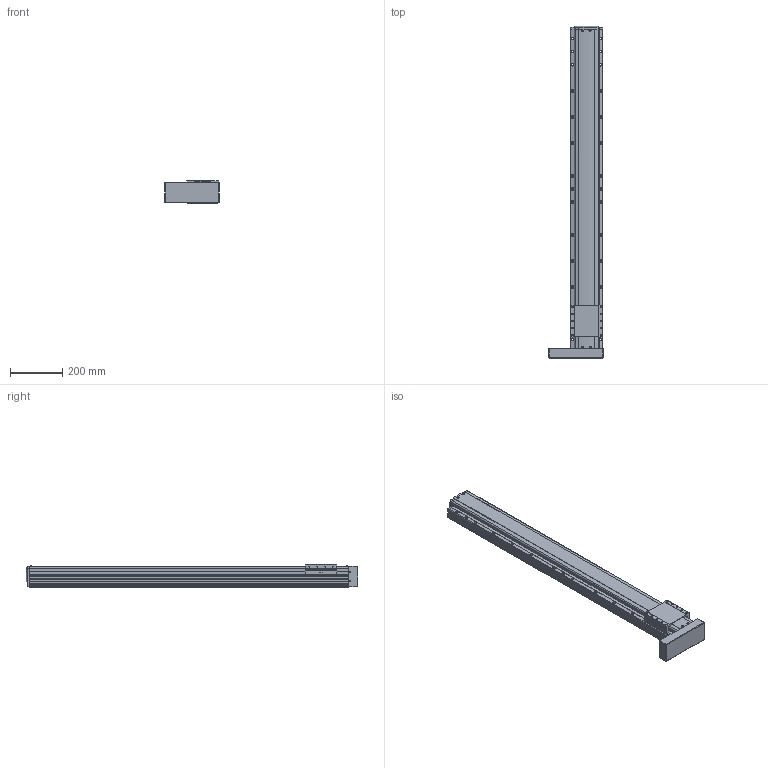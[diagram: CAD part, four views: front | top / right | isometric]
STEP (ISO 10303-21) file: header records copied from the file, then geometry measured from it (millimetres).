
FILE_DESCRIPTION(('STEP AP214'),'1');
FILE_NAME('Z:/Web/3D/PSA125/STP/PSA125-1000 (3D)/PSA125ㅁㅁ-1000PL.stp','2014-06-23T05:12:51',(' '),(' '),'Spatial InterOp 3D',' ',' ');
FILE_SCHEMA(('automotive_design'));
Length unit declared in the file: millimetre
Products named in the file (23): 스크루 : Round - M4.0 x 10.0; RRCV-PA120; SLIDE; BASE; FRCV-PA120-1(기준 뿔 제거); RR1500; 스크루 : Round - M4.0 x 6.0; 너트 : Square - M10.0 x 220.7419; BTCV - 60A; 스크루 : Round - M3.0 x 6.0
Bounding box: 212.13 x 1268.6 x 86 mm (x, y, z)
Volume: 10869501.4 mm3; surface area: 847028.7 mm2
Topology: 23 solids, 23 shells, 2054 faces, 5517 edges, 3498 vertices
Faces by surface type: plane 1066, cylinder 652, cone 236, sphere 44, bspline 31, torus 25
Entity records: 82354 total; most frequent: CARTESIAN_POINT 13836, DIRECTION 10921, ORIENTED_EDGE 10726, EDGE_CURVE 5363, AXIS2_PLACEMENT_3D 3700, LINE 3521, VECTOR 3521, VERTEX_POINT 3498
